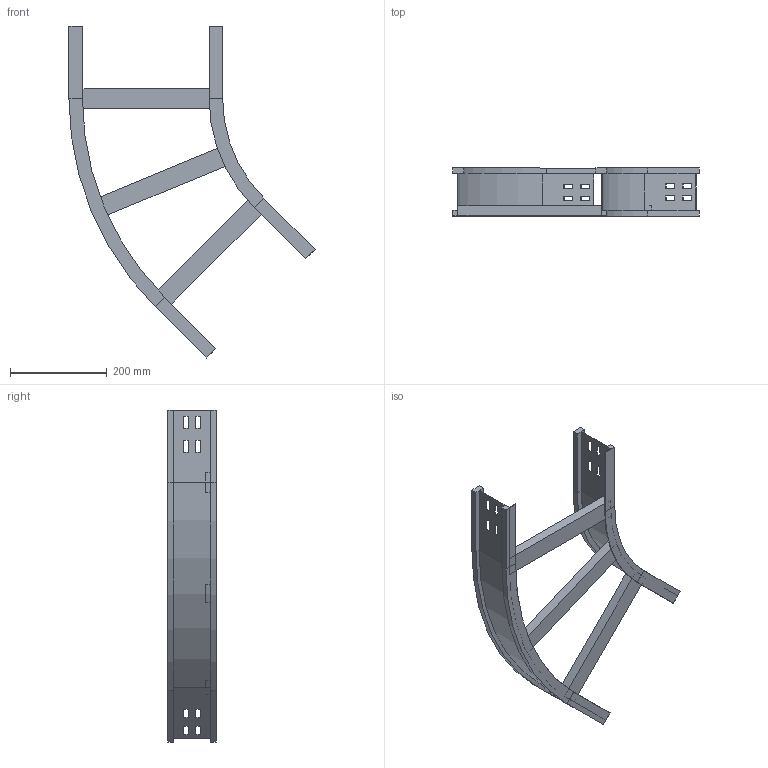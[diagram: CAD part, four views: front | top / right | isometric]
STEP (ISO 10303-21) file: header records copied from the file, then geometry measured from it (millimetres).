
FILE_DESCRIPTION (( 'STEP AP214' ), '1' );
FILE_NAME ('11S3D300.step', '2025-02-21T16:03:06', ( '' ), ( '' ), 'SwSTEP 2.0', 'SolidWorks 2023', '' );
FILE_SCHEMA (( 'AUTOMOTIVE_DESIGN' ));
Length unit declared in the file: millimetre
Products named in the file (4): TRAVERSINO_300; LONGH.INTERNO 45°_H100_R300; 11S3D300; LONGH.ESTERNO 45°_H100_R300+300
Assembly tree (5 placements, depth 2):
  11S3D300
    LONGH.INTERNO 45°_H100_R300
    LONGH.ESTERNO 45°_H100_R300+300
    TRAVERSINO_300  x3
Bounding box: 509.3 x 100 x 686.69 mm (x, y, z)
Volume: 1409271.6 mm3; surface area: 497360.9 mm2
Topology: 5 solids, 5 shells, 158 faces, 396 edges, 248 vertices
Faces by surface type: plane 146, cylinder 12
Entity records: 4477 total; most frequent: CARTESIAN_POINT 758, ORIENTED_EDGE 744, DIRECTION 704, EDGE_CURVE 372, LINE 348, VECTOR 348, VERTEX_POINT 232, EDGE_LOOP 178
